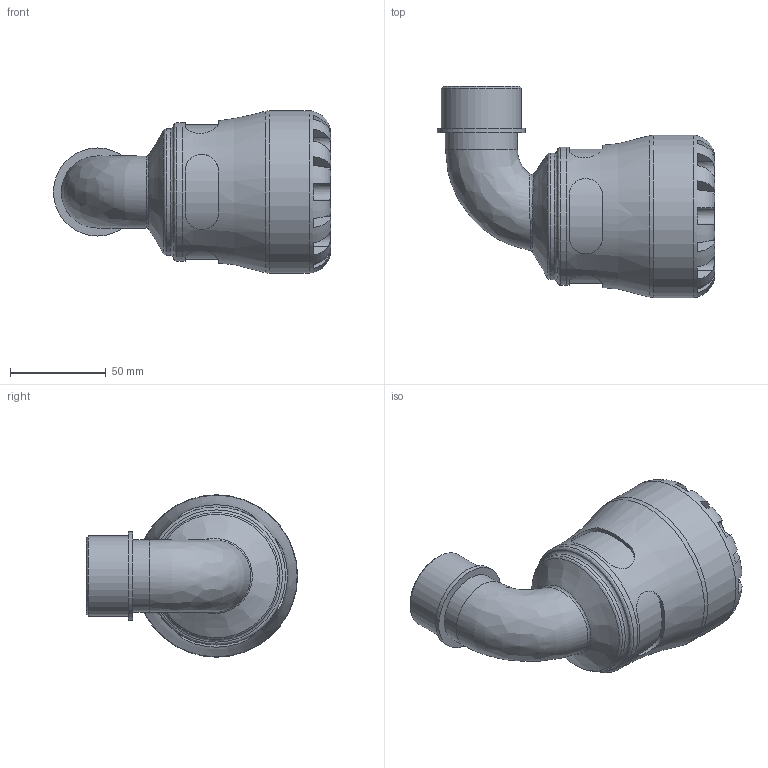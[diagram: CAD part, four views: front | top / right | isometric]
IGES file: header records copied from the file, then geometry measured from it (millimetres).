
Global section: file name: 108500050013_198500050013.ipt; native system: Autodesk Inventor 2015; preprocessor: unknown; author: KIM; date: 20190127.091527; units: millimetre
Bounding box: 145.05 x 110.5 x 85 mm (x, y, z)
Volume: 305446.5 mm3; surface area: 63764.8 mm2
Topology: 1 solids, 1 shells, 110 faces, 280 edges, 176 vertices
Faces by surface type: plane 61, revolution 26, cylinder 18, bspline 4, cone 1
Full cylindrical faces by diameter (mm): 37.719 x1, 41.91 x1, 46.101 x1, 66.3 x1, 72.25 x1, 85 x1
